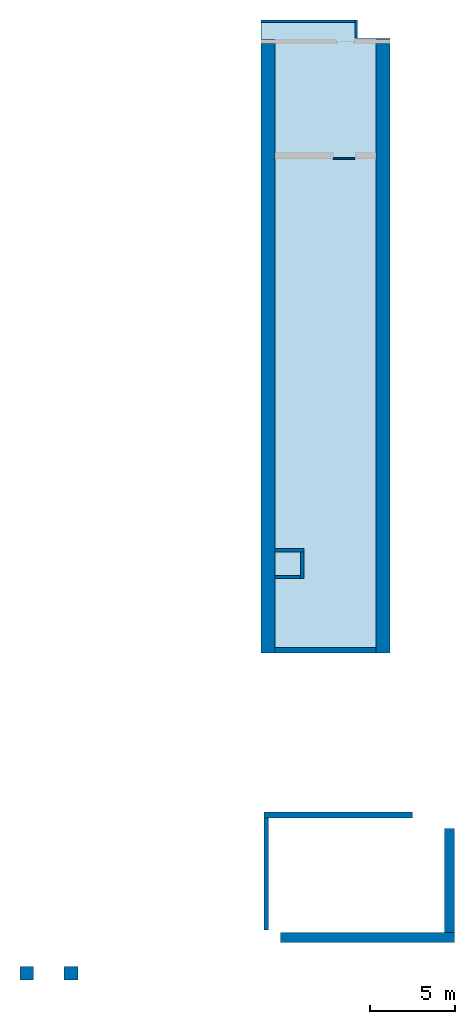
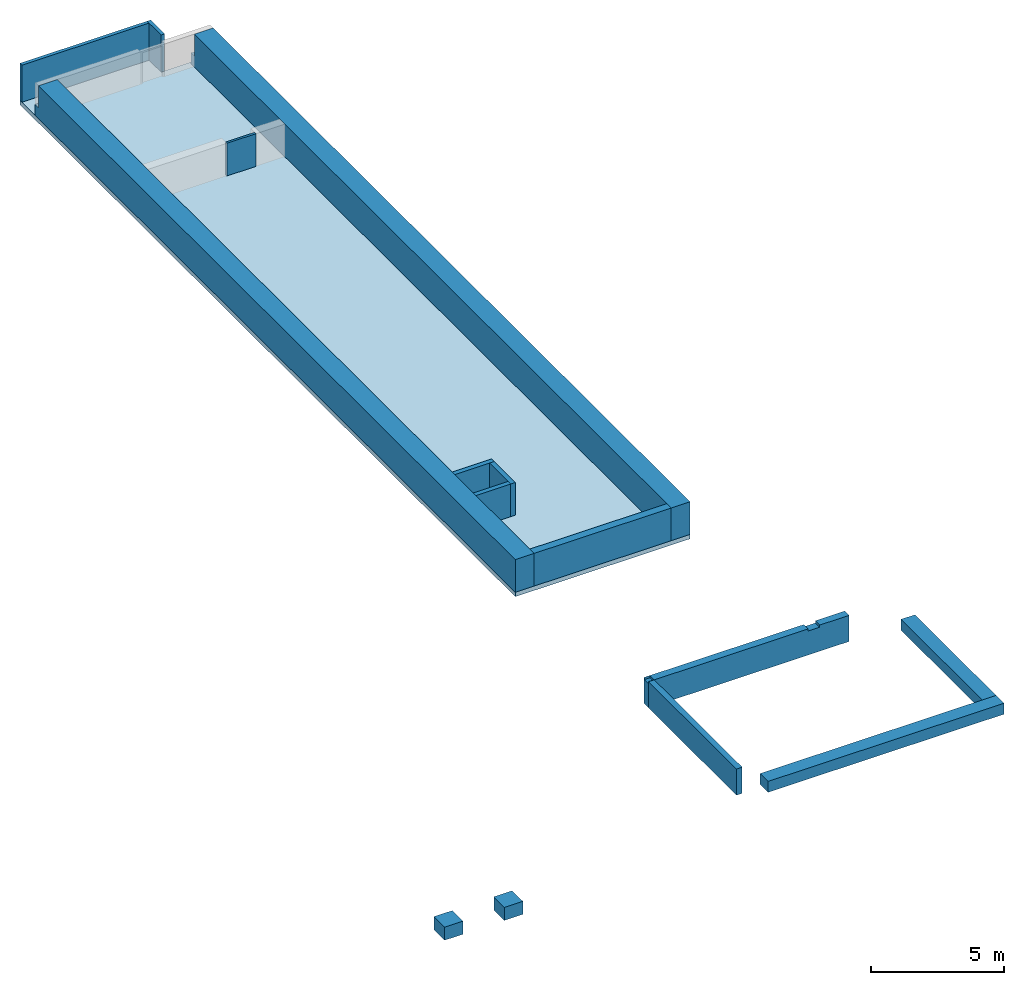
# One storey, incomplete: 15 walls, 1 slab.
"""IFC2X3 building model written with IfcOpenShell, lengths in millimetres."""

from ifc_helpers import new_model, entity, si_unit, converted_unit, derived_unit, money_unit, direction, frame, origin_with_axes, place, context, subcontext, project, spatial, faceted_brep, material, type_object, element, save


model = new_model("IFC2X3")

# Units and contexts
model_context = context("Model", 3, precision=0.01, world=origin_with_axes(), true_north=direction((0.0, 1.0)))
body_context = subcontext(model_context, "Body", "Model", "MODEL_VIEW")
ifc_project = project(units=[si_unit("LENGTHUNIT", "METRE", prefix="MILLI"), si_unit("AREAUNIT", "SQUARE_METRE"), si_unit("VOLUMEUNIT", "CUBIC_METRE"), converted_unit("PLANEANGLEUNIT", "DEGREE", entity("IfcPlaneAngleMeasure", 0.0174532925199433), si_unit("PLANEANGLEUNIT", "RADIAN"), dimensions=[0, 0, 0, 0, 0, 0, 0]), money_unit("EUR"), converted_unit("TIMEUNIT", "Year", entity("IfcTimeMeasure", 31557600.0), si_unit("TIMEUNIT", "SECOND"), dimensions=[0, 0, 1, 0, 0, 0, 0]), si_unit("MASSUNIT", "GRAM", prefix="KILO"), si_unit("THERMODYNAMICTEMPERATUREUNIT", "DEGREE_CELSIUS"), si_unit("LUMINOUSINTENSITYUNIT", "LUMEN"), si_unit("ENERGYUNIT", "JOULE", prefix="MEGA"), derived_unit("THERMALCONDUCTANCEUNIT", [(si_unit("POWERUNIT", "WATT"), 1), (si_unit("LENGTHUNIT", "METRE"), -1), (si_unit("THERMODYNAMICTEMPERATUREUNIT", "KELVIN"), -1)]), derived_unit("SPECIFICHEATCAPACITYUNIT", [(si_unit("ENERGYUNIT", "JOULE"), 1), (si_unit("MASSUNIT", "GRAM", prefix="KILO"), -1), (si_unit("THERMODYNAMICTEMPERATUREUNIT", "KELVIN"), -1)]), derived_unit("MASSDENSITYUNIT", [(si_unit("MASSUNIT", "GRAM", prefix="KILO"), 1), (si_unit("VOLUMEUNIT", "CUBIC_METRE"), -1)])], contexts=[model_context])

# Site, building, storey
site_placement = place(None, origin_with_axes())
site = spatial("IfcSite", under=ifc_project, at=site_placement, Name="Site", CompositionType="ELEMENT")
building_placement = place(site_placement, origin_with_axes())
building = spatial("IfcBuilding", under=site, at=building_placement, Name="Naam gebouw", CompositionType="ELEMENT")
storey_placement = place(building_placement, frame((0.0, 0.0, -1700.0), z_axis=(0.0, 0.0, 1.0), x_axis=(1.0, 0.0, 0.0)))
storey = spatial("IfcBuildingStorey", under=building, at=storey_placement, Name="Fundering N", CompositionType="ELEMENT", Elevation=-1700.0)

# Slab
ifc_material_1 = material(Name="ALG - CONSTRUCTIEF VLOER")
slab_type = type_object("IfcSlabType", Name="ALG Vloer 200", PredefinedType="NOTDEFINED")
slab_placement = place(storey_placement, frame((21426.0, 20015.91242510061, 0.0), z_axis=(0.0, 0.0, 1.0), x_axis=(1.0, 0.0, 0.0)))
element("IfcSlab", 1, at=slab_placement, inside=storey, type_object=slab_type, material=ifc_material_1, Name="_Vloer-x", PredefinedType="NOTDEFINED", context=body_context, shape_type="Brep", body=[
    faceted_brep([(0.0, 0.0, 0.0), (0.0, 0.0, -199.9999999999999), (7589.999999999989, 0.0, -199.9999999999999), (7589.999999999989, 0.0, 0.0), (0.0, 37249.99999999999, 0.0), (0.0, 37249.99999999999, -199.9999999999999), (5669.453814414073, 37249.99999999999, -199.9999999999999), (5669.453814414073, 36199.99999999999, -199.9999999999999), (7589.999999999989, 36199.99999999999, -199.9999999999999), (7589.999999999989, 36199.99999999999, 0.0), (5669.453814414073, 36199.99999999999, 0.0), (5669.453814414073, 37249.99999999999, 0.0)], [[[0, 1, 2, 3]], [[4, 5, 1, 0]], [[2, 1, 5, 6, 7, 8]], [[3, 2, 8, 9]], [[4, 0, 3, 9, 10, 11]], [[11, 6, 5, 4]], [[10, 7, 6, 11]], [[9, 8, 7, 10]]]),
])

# Walls
ifc_material_2 = material(Name="Beton gewapend C vloer")
wall_type_1 = type_object("IfcWallType", Name="Beton gewapend C vloer 800", PredefinedType="NOTDEFINED")
for number, where, z_axis, x_axis, name in (
    (2, (10649.99999785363, 1185.668707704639, 650.0000000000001), (0.0, 0.0, 1.0), (-1.0, 0.0, 0.0), "_Wand-x"),
    (3, (8049.999997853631, 1185.668707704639, 650.0000000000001), (0.0, 0.0, 1.0), (-1.0, 0.0, 0.0), "_Wand-x"),
):
    element("IfcWall", number, at=place(storey_placement, frame(where, z_axis=z_axis, x_axis=x_axis)), inside=storey, type_object=wall_type_1, material=ifc_material_2, Name=name, context=body_context, shape_type="Brep", body=[
        faceted_brep([(0.0, -399.9999999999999, 599.9999999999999), (800.0000000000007, -400.0000000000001, 599.9999999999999), (800.0000000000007, 400.0, 599.9999999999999), (0.0, 400.0000000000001, 599.9999999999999), (0.0, -400.0000000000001, 0.0), (800.0000000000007, -400.0000000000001, 0.0), (800.0000000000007, 399.9999999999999, 0.0), (0.0, 400.0, 0.0)], [[[0, 1, 2, 3]], [[4, 5, 1, 0]], [[2, 1, 5, 6]], [[3, 2, 6, 7]], [[4, 0, 3, 7]], [[7, 6, 5, 4]]]),
    ])
wall_type_2 = type_object("IfcWallType", Name="Beton gewapend C vloer 600", PredefinedType="NOTDEFINED")
wall_1_placement = place(storey_placement, frame((32345.47026007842, 3445.668707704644, 749.9999999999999), z_axis=(0.0, 0.0, 1.0), x_axis=(-1.0, 0.0, 0.0)))
element("IfcWall", 4, at=wall_1_placement, inside=storey, type_object=wall_type_2, material=ifc_material_2, Name="_Wand-x", context=body_context, shape_type="Brep", body=[
    faceted_brep([(-465.0000000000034, -134.9999999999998, 500.0000000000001), (9776.743364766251, -135.0000000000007, 500.0000000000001), (9776.743364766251, 464.9999999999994, 500.0000000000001), (-465.0000000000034, 464.9999999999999, 500.0000000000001), (-465.0000000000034, -134.9999999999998, 0.0), (9776.743364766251, -135.0000000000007, 0.0), (9776.743364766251, 464.9999999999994, 0.0), (-465.0000000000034, 464.9999999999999, 0.0)], [[[0, 1, 2, 3]], [[4, 5, 1, 0]], [[2, 1, 5, 6]], [[3, 2, 6, 7]], [[4, 0, 3, 7]], [[7, 6, 5, 4]]]),
])
wall_2_placement = place(storey_placement, frame((32345.47026007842, 9685.94968985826, 749.9999999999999), z_axis=(0.0, 0.0, 1.0), x_axis=(0.0, -1.0, 0.0)))
element("IfcWall", 5, at=wall_2_placement, inside=storey, type_object=wall_type_2, material=ifc_material_2, Name="_Wand-x", context=body_context, shape_type="Brep", body=[
    faceted_brep([(6105.280982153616, -134.999999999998, 500.0000000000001), (6105.280982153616, 464.9999999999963, 500.0000000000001), (0.0, 465.0000000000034, 500.0000000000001), (0.0, -134.999999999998, 500.0000000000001), (6105.280982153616, -134.999999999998, 0.0), (6105.280982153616, 464.9999999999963, 0.0), (0.0, 465.0000000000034, 0.0), (0.0, -134.999999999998, 0.0)], [[[0, 1, 2, 3]], [[1, 0, 4, 5]], [[1, 5, 6, 2]], [[7, 3, 2, 6]], [[4, 0, 3, 7]], [[5, 4, 7, 6]]]),
])
ifc_material_3 = material(Name="ALG - CONSTRUCTIEF")
wall_type_3 = type_object("IfcWallType", Name="ALG - CONSTRUCTIEF 150", PredefinedType="NOTDEFINED")
wall_3_placement = place(storey_placement, frame((26945.45381441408, 57115.91242510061, 0.0), z_axis=(0.0, 0.0, 1.0), x_axis=(-1.0, 0.0, 0.0)))
element("IfcWall", 6, at=wall_3_placement, inside=storey, type_object=wall_type_3, material=ifc_material_3, Name="_Wand-x", context=body_context, shape_type="Brep", body=[
    faceted_brep([(0.0, -149.9999999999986, 1700.0), (5519.453814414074, -149.9999999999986, 1700.0), (5519.453814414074, 0.0, 1700.0), (0.0, 0.0, 1700.0), (0.0, -149.9999999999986, 0.0), (5519.453814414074, -149.9999999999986, 0.0), (5519.453814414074, 0.0, 0.0), (0.0, 0.0, 0.0)], [[[0, 1, 2, 3]], [[4, 5, 1, 0]], [[2, 1, 5, 6]], [[3, 2, 6, 7]], [[4, 0, 3, 7]], [[7, 6, 5, 4]]]),
])
wall_4_placement = place(storey_placement, frame((26945.45381441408, 55885.91242510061, 0.0), z_axis=(0.0, 0.0, 1.0), x_axis=(0.0, 1.0, 0.0)))
element("IfcWall", 7, at=wall_4_placement, inside=storey, type_object=wall_type_3, material=ifc_material_3, Name="_Wand-x", context=body_context, shape_type="Brep", body=[
    faceted_brep([(324.0000000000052, 0.0, 0.0), (324.0000000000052, 0.0, 1700.0), (1379.999999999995, 0.0, 1700.0), (1379.999999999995, 0.0, 0.0), (324.0000000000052, -149.9999999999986, 1700.0), (324.0000000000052, -149.9999999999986, 0.0), (1379.999999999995, -149.9999999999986, 1700.0), (1379.999999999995, -149.9999999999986, 0.0)], [[[0, 1, 2, 3]], [[4, 1, 0, 5]], [[1, 4, 6, 2]], [[3, 2, 6, 7]], [[5, 0, 3, 7]], [[4, 5, 7, 6]]]),
])
wall_type_4 = type_object("IfcWallType", Name="ALG - CONSTRUCTIEF 100", PredefinedType="NOTDEFINED")
wall_5_placement = place(storey_placement, frame((25680.69938073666, 49075.9124251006, -100.0000000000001), z_axis=(0.0, 0.0, 1.0), x_axis=(1.0, 0.0, 0.0)))
element("IfcWall", 8, at=wall_5_placement, inside=storey, type_object=wall_type_4, material=ifc_material_3, Name="_Wand-x", context=body_context, shape_type="Brep", body=[
    faceted_brep([(1264.754433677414, 0.0, 1600.0), (1264.754433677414, 0.0, 100.0000000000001), (1264.754433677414, 100.0000000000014, 100.0000000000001), (1264.754433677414, 100.0000000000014, 1600.0), (0.0, 0.0, 1600.0), (0.0, 0.0, 100.0000000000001), (0.0, 100.0000000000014, 100.0000000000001), (0.0, 100.0000000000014, 1600.0)], [[[0, 1, 2, 3]], [[4, 5, 1, 0]], [[5, 6, 2, 1]], [[3, 2, 6, 7]], [[7, 4, 0, 3]], [[7, 6, 5, 4]]]),
])
wall_type_5 = type_object("IfcWallType", Name="ALG - CONSTRUCTIEF 200", PredefinedType="NOTDEFINED")
wall_6_placement = place(storey_placement, frame((23755.44427079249, 24595.91245076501, -100.0000000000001), z_axis=(0.0, 0.0, 1.0), x_axis=(-1.0, 0.0, 0.0)))
element("IfcWall", 9, at=wall_6_placement, inside=storey, type_object=wall_type_5, material=ifc_material_3, Name="_Wand-x", context=body_context, shape_type="Brep", body=[
    faceted_brep([(0.0, 199.9999999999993, 1600.0), (0.0, 199.9999999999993, 100.0000000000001), (0.0, 0.0, 99.99999999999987), (0.0, 0.0, 1600.0), (1509.444270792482, 199.9999999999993, 1600.0), (1509.444270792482, 199.9999999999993, 99.99999999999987), (1509.444270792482, 0.0, 100.0000000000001), (1509.444270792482, 0.0, 1600.0)], [[[0, 1, 2, 3]], [[4, 5, 1, 0]], [[5, 6, 2, 1]], [[3, 2, 6, 7]], [[4, 0, 3, 7]], [[7, 6, 5, 4]]]),
])
wall_7_placement = place(storey_placement, frame((23755.44427079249, 25980.91242510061, -100.0000000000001), z_axis=(0.0, 0.0, 1.0), x_axis=(0.0, -1.0, 0.0)))
element("IfcWall", 10, at=wall_7_placement, inside=storey, type_object=wall_type_5, material=ifc_material_3, Name="_Wand-x", context=body_context, shape_type="Brep", body=[
    faceted_brep([(1584.999974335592, 199.9999999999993, 1600.0), (1584.999974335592, 199.9999999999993, 100.0000000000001), (0.0, 199.9999999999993, 100.0000000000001), (0.0, 199.9999999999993, 1600.0), (1584.999974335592, 0.0, 1600.0), (1584.999974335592, 0.0, 100.0000000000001), (0.0, 0.0, 100.0000000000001), (0.0, 0.0, 1600.0)], [[[0, 1, 2, 3]], [[4, 5, 1, 0]], [[5, 6, 2, 1]], [[3, 2, 6, 7]], [[7, 4, 0, 3]], [[7, 6, 5, 4]]]),
])
wall_8_placement = place(storey_placement, frame((21426.00000000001, 25980.91242510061, -100.0000000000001), z_axis=(0.0, 0.0, 1.0), x_axis=(1.0, 0.0, 0.0)))
element("IfcWall", 11, at=wall_8_placement, inside=storey, type_object=wall_type_5, material=ifc_material_3, Name="_Wand-x", context=body_context, shape_type="Brep", body=[
    faceted_brep([(2529.444270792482, 0.0, 1600.0), (2529.444270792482, 0.0, 100.0000000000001), (2529.444270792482, 199.9999999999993, 100.0000000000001), (2529.444270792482, 199.9999999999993, 1600.0), (820.0000000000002, 0.0, 1600.0), (820.0000000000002, 0.0, 99.99999999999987), (2329.444270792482, 0.0, 1600.0), (820.0000000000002, 200.0000000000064, 100.0000000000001), (820.0000000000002, 199.9999999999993, 1600.0), (2329.444270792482, 199.9999999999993, 1600.0)], [[[0, 1, 2, 3]], [[4, 5, 1, 0, 6]], [[5, 7, 2, 1]], [[3, 2, 7, 8, 9]], [[3, 9, 8, 4, 6, 0]], [[8, 7, 5, 4]]]),
])
wall_type_6 = type_object("IfcWallType", Name="ALG - CONSTRUCTIEF 330", PredefinedType="NOTDEFINED")
wall_9_placement = place(storey_placement, frame((21426.00000000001, 20015.91242510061, -100.0000000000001), z_axis=(0.0, 0.0, 1.0), x_axis=(1.0, 0.0, 0.0)))
element("IfcWall", 12, at=wall_9_placement, inside=storey, type_object=wall_type_6, material=ifc_material_3, Name="_Wand-x", context=body_context, shape_type="Brep", body=[
    faceted_brep([(6769.999999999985, 0.0, 1600.0), (6769.999999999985, 0.0, 100.0000000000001), (6769.999999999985, 330.0000000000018, 100.0000000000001), (6769.999999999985, 330.0000000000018, 1600.0), (820.0000000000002, 0.0, 1600.0), (820.0000000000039, 0.0, 100.0000000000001), (820.0000000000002, 329.9999999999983, 100.0000000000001), (820.0000000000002, 330.0000000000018, 1600.0)], [[[0, 1, 2, 3]], [[4, 5, 1, 0]], [[5, 6, 2, 1]], [[3, 2, 6, 7]], [[4, 0, 3, 7]], [[7, 6, 5, 4]]]),
])
wall_10_placement = place(storey_placement, frame((21620.0, 10660.91242510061, 500.0), z_axis=(0.0, 0.0, 1.0), x_axis=(1.0, 0.0, 0.0)))
element("IfcWall", 13, at=wall_10_placement, inside=storey, type_object=wall_type_6, material=ifc_material_3, Name="_Wand-x", context=body_context, shape_type="Brep", body=[
    faceted_brep([(250.0, -10.00000000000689, 1200.0), (250.0, -320.0000000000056, 1200.0), (0.0, -320.0000000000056, 1200.0), (0.0, -329.9999999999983, 1200.0), (6930.0, -330.0000000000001, 1200.0), (6930.0, -2.403807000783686, 1200.0), (0.0, -7.737391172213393e-06, 1200.0), (0.0, -10.00000000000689, 1200.0), (250.0, -320.0000000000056, 1100.0), (250.0, -10.00000000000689, 1100.0), (0.0, -320.0000000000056, 1100.0), (0.0, -10.00000000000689, 1100.0), (0.0, -7.737391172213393e-06, 1000.0), (0.0, 0.0, 0.0), (0.0, -329.9999999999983, 0.0), (7430.0, -330.0000000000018, 1100.0), (6930.0, -330.0000000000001, 1100.0), (8709.187099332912, -329.9999999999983, 0.0), (8709.187099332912, -329.9999999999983, 1200.0), (7430.0, -330.0000000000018, 1200.0), (6930.0, -2.403807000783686, 1100.0), (7430.0, -2.577241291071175, 1100.0), (7430.0, -2.577241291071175, 1200.0), (8709.187099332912, -3.020951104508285, 1200.0), (8709.187099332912, -3.020951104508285, 1000.0), (8709.187099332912, 0.0, 0.0), (8709.187099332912, 0.0, 1000.0)], [[[0, 1, 2, 3, 4, 5, 6, 7]], [[8, 1, 0, 9]], [[10, 2, 1, 8]], [[10, 11, 7, 6, 12, 13, 14, 3, 2]], [[15, 16, 4, 3, 14, 17, 18, 19]], [[16, 20, 5, 4]], [[5, 20, 21, 22, 23, 24, 12, 6]], [[9, 0, 7, 11]], [[9, 11, 10, 8]], [[25, 13, 12, 26]], [[17, 14, 13, 25]], [[15, 21, 20, 16]], [[25, 26, 24, 23, 18, 17]], [[23, 22, 19, 18]], [[15, 19, 22, 21]], [[26, 12, 24]]]),
])
wall_type_7 = type_object("IfcWallType", Name="ALG - CONSTRUCTIEF 820", PredefinedType="NOTDEFINED")
wall_11_placement = place(storey_placement, frame((21426.00000000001, 20015.91242510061, -100.0000000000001), z_axis=(0.0, 0.0, 1.0), x_axis=(0.0, 1.0, 0.0)))
element("IfcWall", 14, at=wall_11_placement, inside=storey, type_object=wall_type_7, material=ifc_material_3, Name="_Wand-x", context=body_context, shape_type="Brep", body=[
    faceted_brep([(0.0, -820.0000000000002, 1600.0), (0.0, -820.0000000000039, 100.0000000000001), (36110.0, -820.0000000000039, 100.0000000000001), (36110.0, -820.0000000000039, 600.0000000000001), (35870.00000000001, -820.0000000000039, 600.0000000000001), (35870.00000000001, -820.0000000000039, 1600.0), (0.0, 0.0, 1600.0), (0.0, 0.0, 100.0000000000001), (36110.0, 0.0, 100.0000000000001), (36110.0, 0.0, 600.0000000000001), (35870.00000000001, 0.0, 600.0000000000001), (35870.00000000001, 0.0, 1600.0)], [[[0, 1, 2, 3, 4, 5]], [[6, 7, 1, 0]], [[7, 8, 2, 1]], [[3, 2, 8, 9]], [[9, 10, 4, 3]], [[4, 10, 11, 5]], [[6, 0, 5, 11]], [[9, 8, 7, 6, 11, 10]]]),
])
wall_12_placement = place(storey_placement, frame((29015.99999999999, 20015.91242510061, -100.0000000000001), z_axis=(0.0, 0.0, 1.0), x_axis=(0.0, 1.0, 0.0)))
element("IfcWall", 15, at=wall_12_placement, inside=storey, type_object=wall_type_7, material=ifc_material_3, Name="_Wand-x", context=body_context, shape_type="Brep", body=[
    faceted_brep([(0.0, 0.0, 1600.0), (0.0, 0.0, 100.0000000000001), (36110.0, 0.0, 100.0000000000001), (36110.0, 0.0, 600.0000000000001), (35869.99999999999, 0.0, 600.0000000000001), (35869.99999999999, 0.0, 1600.0), (0.0, 820.0000000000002, 1600.0), (0.0, 820.0000000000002, 100.0000000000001), (36110.0, 820.0000000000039, 100.0000000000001), (36110.0, 820.0000000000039, 600.0000000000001), (35869.99999999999, 820.0000000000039, 600.0000000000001), (35869.99999999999, 820.0000000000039, 1600.0)], [[[0, 1, 2, 3, 4, 5]], [[6, 7, 1, 0]], [[7, 8, 2, 1]], [[3, 2, 8, 9]], [[10, 4, 3, 9]], [[4, 10, 11, 5]], [[6, 0, 5, 11]], [[9, 8, 7, 6, 11, 10]]]),
])
wall_type_8 = type_object("IfcWallType", Name="ALG - CONSTRUCTIEF 250", PredefinedType="NOTDEFINED")
wall_13_placement = place(storey_placement, frame((21620.00000000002, 3720.668707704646, 500.0), z_axis=(0.0, 0.0, 1.0), x_axis=(0.0, 1.0, 0.0)))
element("IfcWall", 16, at=wall_13_placement, inside=storey, type_object=wall_type_8, material=ifc_material_3, Name="_Wand-x", context=body_context, shape_type="Brep", body=[
    faceted_brep([(0.0, 0.0, 0.0), (6610.243717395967, 0.0, 0.0), (6610.243717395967, -250.0000000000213, 0.0), (0.0, -250.0, 0.0), (0.0, 0.0, 1200.0), (6610.243717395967, 0.0, 1200.0), (6610.243717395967, -250.0000000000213, 1200.0), (0.0, -250.0, 1200.0)], [[[0, 1, 2, 3]], [[4, 5, 1, 0]], [[6, 2, 1, 5]], [[3, 2, 6, 7]], [[7, 4, 0, 3]], [[7, 6, 5, 4]]]),
])

save(model, "model.ifc")
